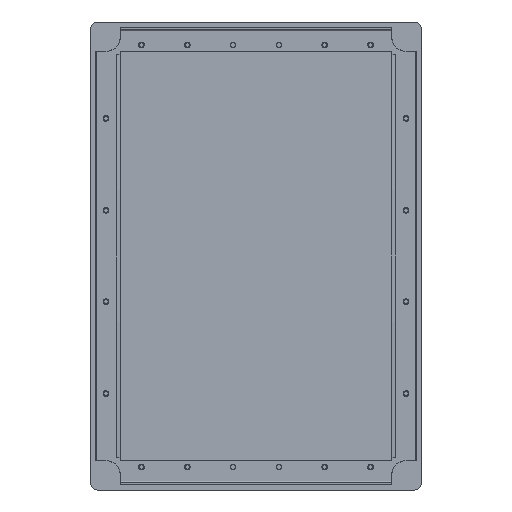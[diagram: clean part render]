
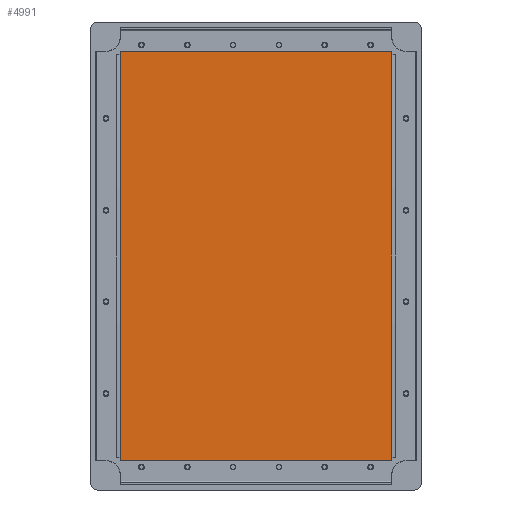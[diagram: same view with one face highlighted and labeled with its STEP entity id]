
A CAD part, front view. The second image highlights one B-rep face of the part: STEP entity #4991.
In plain terms, the highlighted planar face has unit normal (0, -1, 0).
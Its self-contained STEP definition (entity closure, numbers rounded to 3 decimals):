
#3352 = CARTESIAN_POINT ( 'NONE',  ( -73.95, 8.7, 111.4 ) ) ;
#3353 = DIRECTION ( 'NONE',  ( 0., 0., -1. ) ) ;
#3354 = VECTOR ( 'NONE', #3353, 1000. ) ;
#3355 = CARTESIAN_POINT ( 'NONE',  ( -73.95, 8.7, 111.4 ) ) ;
#3356 = LINE ( 'NONE', #3355, #3354 ) ;
#3362 = CARTESIAN_POINT ( 'NONE',  ( -73.95, 8.7, -111.4 ) ) ;
#3578 = DIRECTION ( 'NONE',  ( 0., 0., 1. ) ) ;
#3579 = DIRECTION ( 'NONE',  ( 0., 1., 0. ) ) ;
#3580 = CARTESIAN_POINT ( 'NONE',  ( -86.5, 8.7, -124. ) ) ;
#3581 = AXIS2_PLACEMENT_3D ( 'NONE', #3580, #3579, #3578 ) ;
#3582 = PLANE ( 'NONE',  #3581 ) ;
#3583 = FACE_OUTER_BOUND ( 'NONE', #4992, .T. ) ;
#3628 = DIRECTION ( 'NONE',  ( -1., 0., 0. ) ) ;
#3629 = VECTOR ( 'NONE', #3628, 1000. ) ;
#3630 = CARTESIAN_POINT ( 'NONE',  ( -73.95, 8.7, 111.4 ) ) ;
#3631 = LINE ( 'NONE', #3630, #3629 ) ;
#3662 = CARTESIAN_POINT ( 'NONE',  ( 73.95, 8.7, -111.4 ) ) ;
#3663 = DIRECTION ( 'NONE',  ( 1., 0., 0. ) ) ;
#3664 = VECTOR ( 'NONE', #3663, 1000. ) ;
#3665 = CARTESIAN_POINT ( 'NONE',  ( -73.95, 8.7, -111.4 ) ) ;
#3666 = LINE ( 'NONE', #3665, #3664 ) ;
#3689 = CARTESIAN_POINT ( 'NONE',  ( 73.95, 8.7, 111.4 ) ) ;
#3690 = DIRECTION ( 'NONE',  ( 0., 0., 1. ) ) ;
#3691 = VECTOR ( 'NONE', #3690, 1000. ) ;
#3692 = CARTESIAN_POINT ( 'NONE',  ( 73.95, 8.7, 111.4 ) ) ;
#3693 = LINE ( 'NONE', #3692, #3691 ) ;
#4830 = VERTEX_POINT ( 'NONE', #3362 ) ;
#4837 = EDGE_CURVE ( 'NONE', #4838, #4830, #3356, .T. ) ;
#4838 = VERTEX_POINT ( 'NONE', #3352 ) ;
#4974 = ORIENTED_EDGE ( 'NONE', *, *, #5019, .T. ) ;
#4975 = ORIENTED_EDGE ( 'NONE', *, *, #5037, .T. ) ;
#4991 = ADVANCED_FACE ( 'NONE', ( #3583 ), #3582, .F. ) ;
#4992 = EDGE_LOOP ( 'NONE', ( #4993, #4994, #4974, #4975 ) ) ;
#4993 = ORIENTED_EDGE ( 'NONE', *, *, #5002, .T. ) ;
#4994 = ORIENTED_EDGE ( 'NONE', *, *, #4837, .T. ) ;
#5002 = EDGE_CURVE ( 'NONE', #5038, #4838, #3631, .T. ) ;
#5019 = EDGE_CURVE ( 'NONE', #4830, #5020, #3666, .T. ) ;
#5020 = VERTEX_POINT ( 'NONE', #3662 ) ;
#5037 = EDGE_CURVE ( 'NONE', #5020, #5038, #3693, .T. ) ;
#5038 = VERTEX_POINT ( 'NONE', #3689 ) ;
